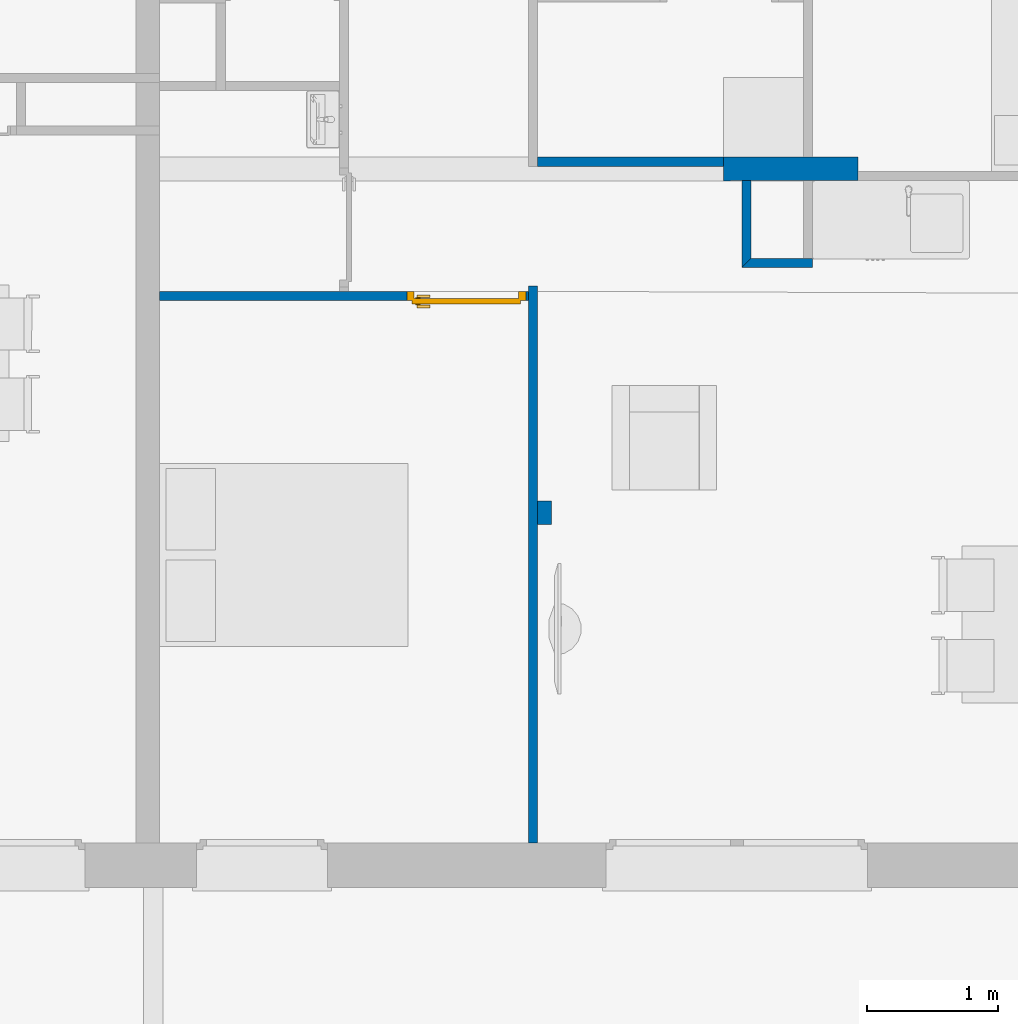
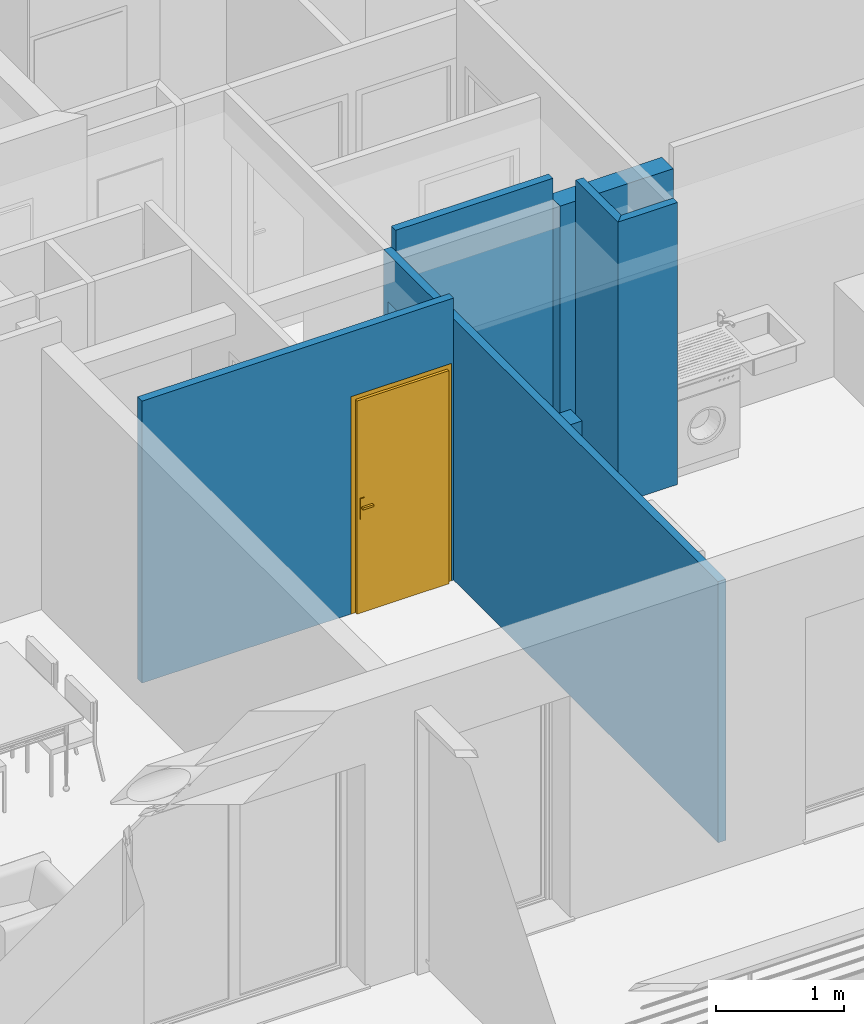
# One storey, part 7 of 164: 7 walls, 1 door, 2 openings.
"""IFC2X3 building model written with IfcOpenShell, lengths in millimetres."""

from ifc_helpers import new_model, entity, si_unit, converted_unit, derived_unit, money_unit, direction, frame, origin_with_axes, origin_2d_with_axis, place, context, subcontext, project, spatial, polyline, rectangle, outline, extrude, faceted_brep, source, transform, mapped, material, layer, layer_set, layer_usage, type_object, element, fill, save


model = new_model("IFC2X3")

# Units and contexts
model_context = context("Model", 3, precision=0.01, world=origin_with_axes(), true_north=direction((0.0, 1.0)))
body_context = subcontext(model_context, "Body", "Model", "MODEL_VIEW")
ifc_project = project(units=[si_unit("LENGTHUNIT", "METRE", prefix="MILLI"), si_unit("AREAUNIT", "SQUARE_METRE"), si_unit("VOLUMEUNIT", "CUBIC_METRE"), converted_unit("PLANEANGLEUNIT", "DEGREE", entity("IfcPlaneAngleMeasure", 0.0174532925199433), si_unit("PLANEANGLEUNIT", "RADIAN"), dimensions=[0, 0, 0, 0, 0, 0, 0]), money_unit("USD"), converted_unit("TIMEUNIT", "Year", entity("IfcTimeMeasure", 31557600.0), si_unit("TIMEUNIT", "SECOND"), dimensions=[0, 0, 1, 0, 0, 0, 0]), si_unit("MASSUNIT", "GRAM", prefix="KILO"), si_unit("THERMODYNAMICTEMPERATUREUNIT", "DEGREE_CELSIUS"), si_unit("LUMINOUSINTENSITYUNIT", "LUMEN"), si_unit("ENERGYUNIT", "JOULE", prefix="MEGA"), derived_unit("THERMALCONDUCTANCEUNIT", [(si_unit("POWERUNIT", "WATT"), 1), (si_unit("LENGTHUNIT", "METRE"), -1), (si_unit("THERMODYNAMICTEMPERATUREUNIT", "KELVIN"), -1)]), derived_unit("SPECIFICHEATCAPACITYUNIT", [(si_unit("ENERGYUNIT", "JOULE"), 1), (si_unit("MASSUNIT", "GRAM", prefix="KILO"), -1), (si_unit("THERMODYNAMICTEMPERATUREUNIT", "KELVIN"), -1)]), derived_unit("MASSDENSITYUNIT", [(si_unit("MASSUNIT", "GRAM", prefix="KILO"), 1), (si_unit("VOLUMEUNIT", "CUBIC_METRE"), -1)])], contexts=[model_context])

# Site, building, storey
site_placement = place(None, origin_with_axes())
site = spatial("IfcSite", under=ifc_project, at=site_placement, Name="Site", CompositionType="ELEMENT")
building_placement = place(site_placement, origin_with_axes())
building = spatial("IfcBuilding", under=site, at=building_placement, Name="Bâtiment", CompositionType="ELEMENT")
storey_placement = place(building_placement, frame((0.0, 0.0, 5750.0), z_axis=(0.0, 0.0, 1.0), x_axis=(1.0, 0.0, 0.0)))
storey = spatial("IfcBuildingStorey", under=building, at=storey_placement, Name="Etage1", CompositionType="ELEMENT", Elevation=5750.0)

# Walls
ifc_material_1 = material(Name="Parpaing 314940890")
ifc_layer_1 = layer(ifc_material_1, 180.0, ventilated="UNKNOWN")
ifc_layer_set_1 = layer_set([ifc_layer_1], Name="Beton  18 0018356637")
ifc_layer_usage_1 = layer_usage(ifc_layer_set_1, "AXIS2", "POSITIVE", 0.0)
wall_type_1 = type_object("IfcWallType", Name="Beton  18 0018356637 180", PredefinedType="NOTDEFINED")
wall_1_placement = place(storey_placement, frame((2228626.880896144, -652413.3059493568, 0.0), z_axis=(0.0, 0.0, 1.0), x_axis=(0.9999998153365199, 0.0006077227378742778, 0.0)))
element("IfcWallStandardCase", 1, at=wall_1_placement, inside=storey, type_object=wall_type_1, material=ifc_layer_usage_1, Name="Mur-143", context=body_context, shape_type="SweptSolid", body=[
    extrude(outline(polyline([(0.0, 0.0), (1026.595336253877, 0.0), (1026.648381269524, 179.9999999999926), (0.0, 180.0000000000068), (0.0, 0.0)])), origin_with_axes(), (0.0, 0.0, 1.0), 2500.0),
])
ifc_material_2 = material(Name="Hachure solide 268963992")
ifc_layer_2 = layer(ifc_material_2, 70.0, ventilated="UNKNOWN")
ifc_layer_set_2 = layer_set([ifc_layer_2], Name="Cloison 70 0826278243")
ifc_layer_usage_2 = layer_usage(ifc_layer_set_2, "AXIS2", "NEGATIVE", 70.0)
wall_type_2 = type_object("IfcWallType", Name="Cloison 70 0826278243 70", PredefinedType="NOTDEFINED")
wall_2_placement = place(storey_placement, frame((2228767.123358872, -653076.8978234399, 0.0), z_axis=(0.0, 0.0, 1.0), x_axis=(0.999999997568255, -6.973872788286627e-05, 0.0)))
element("IfcWallStandardCase", 2, at=wall_2_placement, inside=storey, type_object=wall_type_2, material=ifc_layer_usage_2, Name="Mur-149", context=body_context, shape_type="SweptSolid", body=[
    extrude(outline(polyline([(0.0, 0.0), (539.9996485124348, 0.0), (539.9996485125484, 69.99999999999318), (69.96954981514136, 69.99999999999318), (0.0, 0.0)])), origin_with_axes(), (0.0, 0.0, 1.0), 2700.0),
])
ifc_layer_usage_3 = layer_usage(ifc_layer_set_2, "AXIS2", "NEGATIVE", 70.0)
wall_3_placement = place(storey_placement, frame((2227132.330502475, -652303.3050478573, 0.0), z_axis=(0.0, 0.0, 1.0), x_axis=(1.0, 0.0, 0.0)))
element("IfcWallStandardCase", 3, at=wall_3_placement, inside=storey, type_object=wall_type_2, material=ifc_layer_usage_3, Name="Mur-149", context=body_context, shape_type="SweptSolid", body=[
    extrude(outline(polyline([(70.00000000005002, 0.0), (1494.550392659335, 0.0), (1494.550392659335, 69.99999999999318), (70.00000000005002, 69.99999999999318), (70.00000000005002, 0.0)])), origin_with_axes(), (0.0, 0.0, 1.0), 2700.0),
])

# Wall, opening
ifc_layer_usage_4 = layer_usage(ifc_layer_set_2, "AXIS2", "NEGATIVE", 70.0)
wall_4_placement = place(storey_placement, frame((2227132.330502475, -652233.3050478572, 0.0), z_axis=(0.0, 0.0, 1.0), x_axis=(0.0, -1.0, 0.0)))
wall_4 = element("IfcWallStandardCase", 4, at=wall_4_placement, inside=storey, type_object=wall_type_2, material=ifc_layer_usage_4, Name="Mur-149", context=body_context, shape_type="SweptSolid", body=[
    extrude(outline(polyline([(0.0, 0.0), (5245.018029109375, 0.0), (5245.018029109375, 70.00000000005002), (0.0, 70.00000000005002), (0.0, 0.0)])), origin_with_axes(), (0.0, 0.0, 1.0), 2500.0),
])
opening_1_placement = place(wall_4_placement, frame((528.0165640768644, 1.13686837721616e-10, 0.0), z_axis=(0.0, 0.0, 1.0), x_axis=(1.0, 0.0, 0.0)))
element("IfcOpeningElement", 5, at=opening_1_placement, cuts=wall_4, Name="Por-282", context=body_context, shape_type="SweptSolid", body=[
    extrude(rectangle(XDim=916.0331281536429, YDim=2040.0, at=origin_2d_with_axis()), frame((0.0, 70.00000000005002, 1020.0), z_axis=(0.0, -1.0, 0.0), x_axis=(1.0, 0.0, 0.0)), (0.0, 0.0, -1.0), 70.0),
    extrude(rectangle(XDim=916.0331281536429, YDim=2040.0, at=origin_2d_with_axis()), frame((0.0, 70.00000000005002, 1020.0), z_axis=(0.0, 1.0, 0.0), x_axis=(1.0, 0.0, 0.0)), (0.0, 0.0, -1.0), 70.0),
])

# Wall, opening, door
ifc_layer_usage_5 = layer_usage(ifc_layer_set_2, "AXIS2", "NEGATIVE", 70.0)
wall_5_placement = place(storey_placement, frame((2224312.339537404, -653330.4707198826, 0.0), z_axis=(0.0, 0.0, 1.0), x_axis=(1.0, 0.0, 0.0)))
wall_5 = element("IfcWallStandardCase", 6, at=wall_5_placement, inside=storey, type_object=wall_type_2, material=ifc_layer_usage_5, Name="Mur-149", context=body_context, shape_type="SweptSolid", body=[
    extrude(outline(polyline([(0.0, 0.0), (2819.990965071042, 0.0), (2819.990965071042, 69.99999999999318), (0.0, 69.99999999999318), (0.0, 0.0)])), origin_with_axes(), (0.0, 0.0, 1.0), 2700.0),
])
opening_2_placement = place(wall_5_placement, frame((2347.11135619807, 0.0, 0.0), z_axis=(0.0, 0.0, 1.0), x_axis=(1.0, 0.0, 0.0)))
opening_2 = element("IfcOpeningElement", 7, at=opening_2_placement, cuts=wall_5, Name="Por-281", context=body_context, shape_type="SweptSolid", body=[
    extrude(rectangle(XDim=910.0, YDim=2080.0, at=origin_2d_with_axis()), frame((0.0, 69.99999999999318, 1040.0), z_axis=(0.0, 1.0, 0.0), x_axis=(1.0, 0.0, 0.0)), (0.0, 0.0, -1.0), 140.0),
])
door_style = type_object("IfcDoorStyle", Name="Porte_1v", ConstructionType="NOTDEFINED", OperationType="NOTDEFINED", ParameterTakesPrecedence=False, Sizeable=False)
shared_shape = source(origin_with_axes(), body_context, "Body", "Brep", [
    faceted_brep([(-454.9999999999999, 0.0, 0.0), (-454.9999999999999, 0.0, 2080.0), (454.9999999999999, 0.0, 2080.0), (454.9999999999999, 0.0, 0.0), (414.9999999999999, 0.0, 0.0), (414.9999999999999, 0.0, 2040.0), (-414.9999999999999, 0.0, 2040.0), (-414.9999999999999, 0.0, 0.0), (-454.9999999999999, -69.99999999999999, 0.0), (-454.9999999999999, -69.99999999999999, 2080.0), (454.9999999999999, -69.99999999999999, 2080.0), (454.9999999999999, -69.99999999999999, 0.0), (399.9999999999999, -69.99999999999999, 0.0), (399.9999999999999, -15.0, 0.0), (414.9999999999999, -15.0, 0.0), (414.9999999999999, -15.0, 2040.0), (-414.9999999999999, -14.99999999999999, 2040.0), (-414.9999999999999, -14.99999999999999, 0.0), (-399.9999999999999, -14.99999999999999, 0.0), (-399.9999999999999, -69.99999999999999, 0.0), (-399.9999999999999, -69.99999999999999, 2025.0), (399.9999999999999, -69.99999999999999, 2025.0), (399.9999999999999, -15.0, 2025.0), (-399.9999999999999, -14.99999999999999, 2025.0)], [[[0, 1, 2, 3, 4, 5, 6, 7]], [[8, 9, 1, 0]], [[9, 10, 2, 1]], [[10, 11, 3, 2]], [[3, 11, 12, 13, 14, 4]], [[5, 4, 14, 15]], [[6, 5, 15, 16]], [[7, 6, 16, 17]], [[0, 7, 17, 18, 19, 8]], [[19, 20, 21, 12, 11, 10, 9, 8]], [[22, 13, 12, 21]], [[17, 16, 15, 14, 13, 22, 23, 18]], [[18, 23, 20, 19]], [[23, 22, 21, 20]]]),
    faceted_brep([(350.0, -15.0, 900.0), (350.0, -15.0, 1100.0), (389.9999999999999, -15.0, 1100.0), (389.9999999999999, -15.0, 900.0), (350.0, -25.0, 900.0), (350.0, -25.0, 1100.0), (389.9999999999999, -25.0, 1100.0), (389.9999999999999, -25.0, 900.0)], [[[0, 1, 2, 3]], [[0, 4, 5, 1]], [[1, 5, 6, 2]], [[2, 6, 7, 3]], [[3, 7, 4, 0]], [[7, 6, 5, 4]]]),
    faceted_brep([(279.9999999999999, -25.0, 1000.0), (279.9999999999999, -25.0, 1020.0), (379.9999999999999, -25.0, 1020.0), (379.9999999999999, -25.0, 1000.0), (279.9999999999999, -45.0, 1000.0), (279.9999999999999, -45.0, 1020.0), (379.9999999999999, -45.0, 1020.0), (379.9999999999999, -45.0, 1000.0)], [[[0, 1, 2, 3]], [[0, 4, 5, 1]], [[1, 5, 6, 2]], [[2, 6, 7, 3]], [[3, 7, 4, 0]], [[7, 6, 5, 4]]]),
    faceted_brep([(350.0, 34.99999999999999, 900.0), (350.0, 34.99999999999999, 1100.0), (389.9999999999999, 34.99999999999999, 1100.0), (389.9999999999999, 34.99999999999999, 900.0), (350.0, 24.99999999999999, 900.0), (350.0, 24.99999999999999, 1100.0), (389.9999999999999, 24.99999999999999, 1100.0), (389.9999999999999, 24.99999999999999, 900.0)], [[[0, 1, 2, 3]], [[0, 4, 5, 1]], [[1, 5, 6, 2]], [[2, 6, 7, 3]], [[3, 7, 4, 0]], [[7, 6, 5, 4]]]),
    faceted_brep([(279.9999999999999, 54.99999999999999, 1000.0), (279.9999999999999, 54.99999999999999, 1020.0), (379.9999999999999, 54.99999999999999, 1020.0), (379.9999999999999, 54.99999999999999, 1000.0), (279.9999999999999, 34.99999999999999, 1000.0), (279.9999999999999, 34.99999999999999, 1020.0), (379.9999999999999, 34.99999999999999, 1020.0), (379.9999999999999, 34.99999999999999, 1000.0)], [[[0, 1, 2, 3]], [[0, 4, 5, 1]], [[1, 5, 6, 2]], [[2, 6, 7, 3]], [[3, 7, 4, 0]], [[7, 6, 5, 4]]]),
    faceted_brep([(414.9999999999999, 24.99999999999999, 0.0), (414.9999999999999, -15.0, 0.0), (-414.9999999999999, -14.99999999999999, 0.0), (-414.9999999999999, 25.0, 0.0), (414.9999999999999, 24.99999999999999, 2040.0), (414.9999999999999, -15.0, 2040.0), (-414.9999999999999, -14.99999999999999, 2040.0), (-414.9999999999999, 25.0, 2040.0)], [[[0, 1, 2, 3]], [[4, 5, 1, 0]], [[1, 5, 6, 2]], [[3, 2, 6, 7]], [[0, 3, 7, 4]], [[7, 6, 5, 4]]]),
])
door_placement = place(opening_2_placement, frame((414.9999999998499, 0.0, 0.0), z_axis=(0.0, 0.0, 1.0), x_axis=(-1.0, 0.0, 0.0)))
door = element("IfcDoor", 8, at=door_placement, inside=storey, type_object=door_style, Name="Por-281", OverallHeight=2040.0, OverallWidth=830.0, context=body_context, shape_type="MappedRepresentation", body=[
    mapped(shared_shape, transform((414.9999999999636, 0.0, 0.0))),
])
fill(opening_2, door)

# Walls
ifc_layer_usage_6 = layer_usage(ifc_layer_set_2, "AXIS2", "NEGATIVE", 70.0)
wall_6_placement = place(storey_placement, frame((2228766.880896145, -652413.2682904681, 0.0), z_axis=(0.0, 0.0, 1.0), x_axis=(0.0003653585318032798, -0.9999999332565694, 0.0)))
element("IfcWallStandardCase", 9, at=wall_6_placement, inside=storey, type_object=wall_type_2, material=ifc_layer_usage_6, Name="Mur-149", context=body_context, shape_type="SweptSolid", body=[
    extrude(outline(polyline([(0.0, 0.0), (663.6295772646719, 0.0), (593.6600274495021, 69.99999999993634), (0.0, 70.00000000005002), (0.0, 0.0)])), origin_with_axes(), (0.0, 0.0, 1.0), 2700.0),
])
ifc_material_3 = material(Name="Parpaing 312445824")
ifc_layer_3 = layer(ifc_material_3, 180.0, ventilated="UNKNOWN")
ifc_layer_set_3 = layer_set([ifc_layer_3], Name="Beton  18 0836643197")
ifc_layer_usage_7 = layer_usage(ifc_layer_set_3, "AXIS2", "NEGATIVE", 0.0)
wall_type_3 = type_object("IfcWallType", Name="Beton  18 0836643197 180", PredefinedType="NOTDEFINED")
wall_7_placement = place(storey_placement, frame((2227308.402980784, -655041.4677782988, 0.0), z_axis=(0.0, 0.0, 1.0), x_axis=(-1.0, 0.0, 0.0)))
element("IfcWallStandardCase", 10, at=wall_7_placement, inside=storey, type_object=wall_type_3, material=ifc_layer_usage_7, Name="Mur-143", context=body_context, shape_type="SweptSolid", body=[
    extrude(outline(polyline([(0.0, -180.0000000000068), (106.0724783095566, -180.0000000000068), (106.0724783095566, 0.0), (0.0, 0.0), (0.0, -180.0000000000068)])), origin_with_axes(), (0.0, 0.0, 1.0), 2500.0),
])

save(model, "model.ifc")
